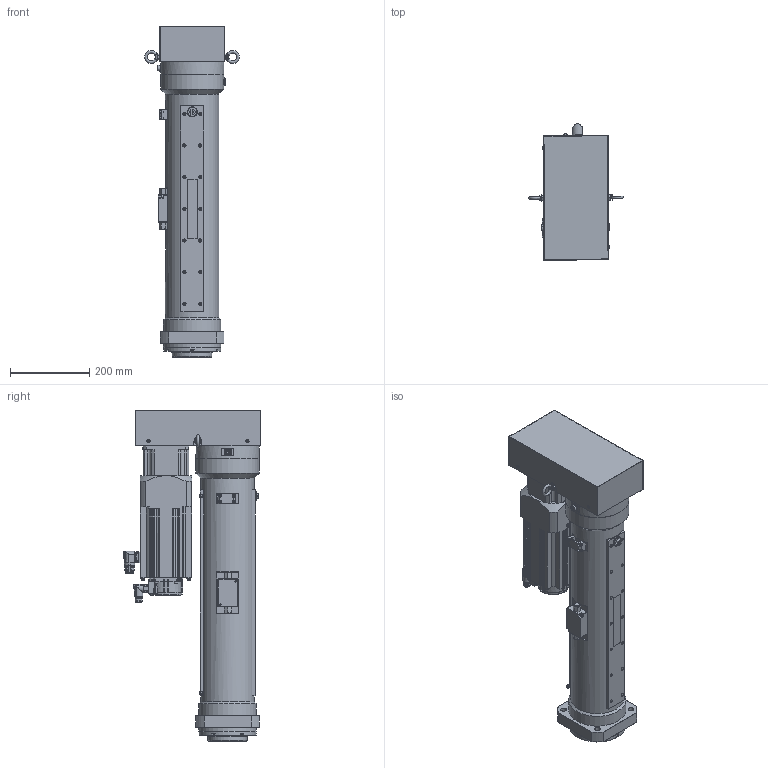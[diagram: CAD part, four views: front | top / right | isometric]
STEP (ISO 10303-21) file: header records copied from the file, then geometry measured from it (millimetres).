
FILE_DESCRIPTION(/* description */ (''),/* implementation_level */ '2;1');
FILE_NAME(/* name */ 'Z:\07.Product\01.Design\3D\1.P-All\OAICS-P\0000.Assembly\OACIS-P070,P080-450-150-A6V400.stp',/* time_stamp */ '2023-03-15T08:59:37+09:00',/* author */ ('magic'),/* organization */ (''),/* preprocessor_version */ 'ST-DEVELOPER v17',/* originating_system */ 'Autodesk Inventor 2019',/* authorisation */ '');
FILE_SCHEMA (('AUTOMOTIVE_DESIGN { 1 0 10303 214 3 1 1 }'));
Products named in the file (1): OACIS-P070,P080-450-150-A6V400
Bounding box: 238.9 x 345.02 x 835 mm (x, y, z)
Volume: 14340996.6 mm3; surface area: 1664690 mm2
Topology: 2 solids, 7 shells, 2784 faces, 7500 edges, 4952 vertices
Faces by surface type: plane 1342, cylinder 866, cone 270, bspline 156, torus 90, sphere 60
Full cylindrical faces by diameter (mm): 1 x6, 1.25 x12, 2.232 x6, 2.8 x1, 3.242 x32, 4.134 x4, 4.5 x23, 4.917 x1, 5.5 x5, 5.8 x2, 6 x4, 6.5 x2, 6.647 x32, 6.75 x4, 7 x17, 7.2 x2, 7.24 x2, 7.8 x2, 8 x46, 8.5 x4, 9 x24, 9.188 x1, 10 x4, 10.3 x1, 11 x1, 12 x1, 13 x1, 13.4 x1, 13.835 x8, 14 x13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
Entity records: 102767 total; most frequent: CARTESIAN_POINT 29580, DIRECTION 14816, ORIENTED_EDGE 14753, EDGE_CURVE 7384, AXIS2_PLACEMENT_3D 5544, VERTEX_POINT 4952, LINE 3728, VECTOR 3728
